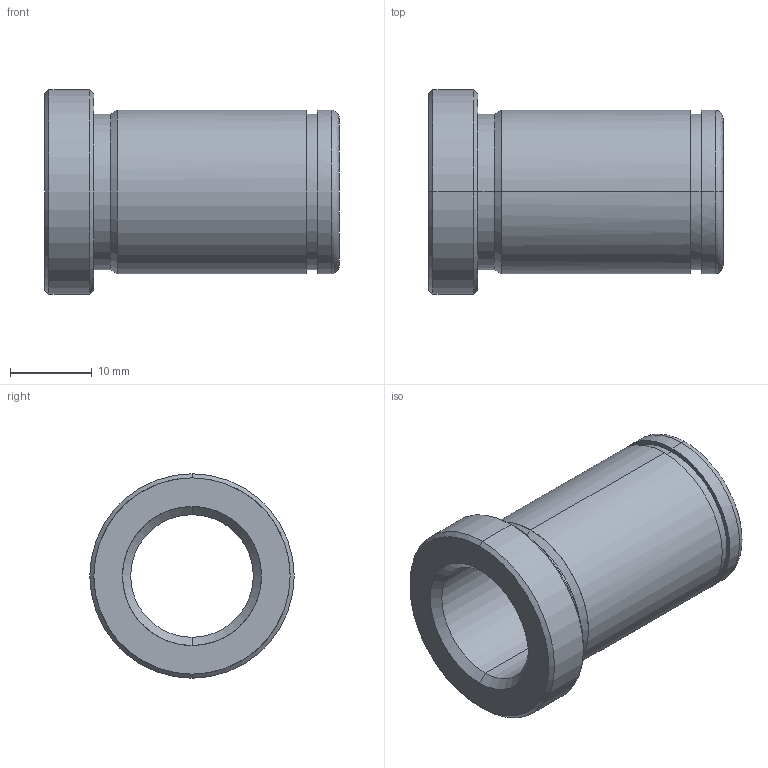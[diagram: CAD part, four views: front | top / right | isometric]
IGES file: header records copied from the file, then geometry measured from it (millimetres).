
Start section: START RECORD GO HERE.
Global section: file name: 553-15X36.igs; native system: DASSAULT SYSTEMES CATIA V5 R20 - www.3ds.com; preprocessor: CATIA Version 5 Release 20 ; author: Utente; organization: NB04-ASUS; date: 20210521.203821; units: millimetre
Bounding box: 36 x 25 x 25 mm (x, y, z)
Surface area: 4639.6 mm2 (no closed solid volume)
Topology: 0 solids, 0 shells, 28 faces, 176 edges, 176 vertices
Faces by surface type: revolution 24, plane 4
